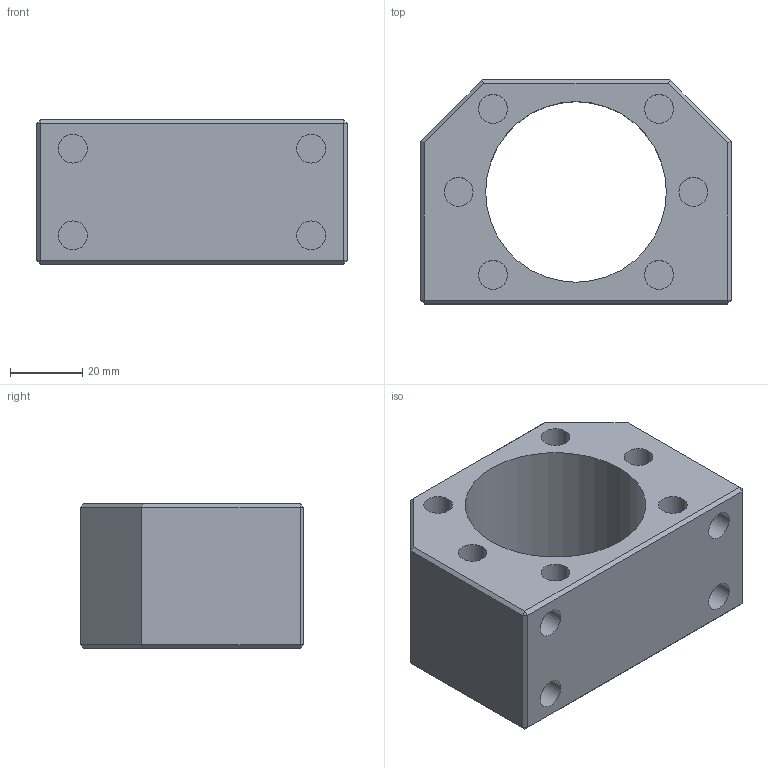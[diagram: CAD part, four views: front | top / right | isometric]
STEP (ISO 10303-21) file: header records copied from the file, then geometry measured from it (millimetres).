
FILE_DESCRIPTION (( 'STEP AP214' ), '1' );
FILE_NAME ('2.4026 Kuulamutterin kotelo DSG32H.STEP', '2024-05-06T08:23:19', ( '' ), ( '' ), 'SwSTEP 2.0', 'SolidWorks 2024', '' );
FILE_SCHEMA (( 'AUTOMOTIVE_DESIGN' ));
Length unit declared in the file: millimetre
Products named in the file (1): 2.4026 Kuulamutterin kotelo DSG32H
Bounding box: 86 x 62 x 40 mm (x, y, z)
Volume: 113788.7 mm3; surface area: 27635.9 mm2
Topology: 1 solids, 1 shells, 58 faces, 118 edges, 72 vertices
Faces by surface type: plane 36, cylinder 22
Entity records: 1533 total; most frequent: DIRECTION 280, CARTESIAN_POINT 249, ORIENTED_EDGE 236, EDGE_CURVE 118, AXIS2_PLACEMENT_3D 103, VECTOR 74, LINE 74, VERTEX_POINT 72
